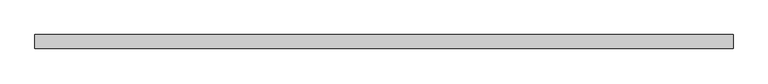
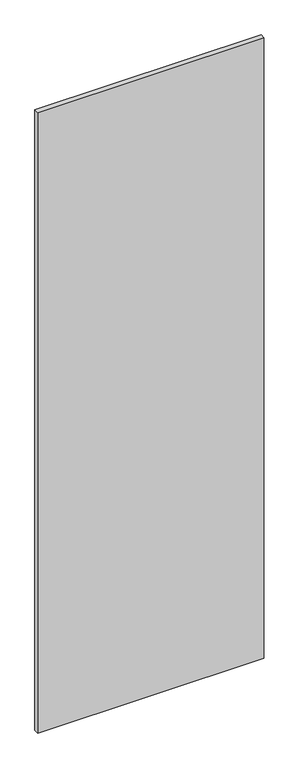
"""IFC4 building model written with IfcOpenShell, lengths in millimetres: plate geometry, 系统嵌板 : 玻璃."""

from ifc_helpers import new_model, si_unit, origin, origin_with_axes, place, context, project, spatial, polyline, outline, extrude, source, transform, mapped, element, save


def plate_af46959f(model_context):
    return source(origin(), model_context, "Body", "SweptSolid", [
        extrude(outline(polyline([(621.25, -12.5), (-621.25, -12.5), (-621.25, 12.5), (621.25, 12.5), (621.25, -12.5)])), origin_with_axes(), (0.0, 0.0, 1.0), 3600.0),
    ])


if __name__ == "__main__":
    model = new_model("IFC4")
    model_context = context("Model", 3, world=origin())
    ifc_project = project(units=[si_unit("LENGTHUNIT", "METRE", prefix="MILLI")], contexts=[model_context])
    site = spatial("IfcSite", under=ifc_project)
    building = spatial("IfcBuilding", under=site)
    placement = place(None, origin())
    plate_shape = plate_af46959f(model_context)
    element("IfcPlate", 1, ObjectType="系统嵌板 : 玻璃", at=placement, inside=building, context=model_context, shape_type="MappedRepresentation", body=[
        mapped(plate_shape, transform((0.0, 0.0, 0.0), x_axis=(1.0, 0.0, 0.0), y_axis=(0.0, 1.0, 0.0), z_axis=(0.0, 0.0, 1.0))),
    ])
    save(model, "model.ifc")
